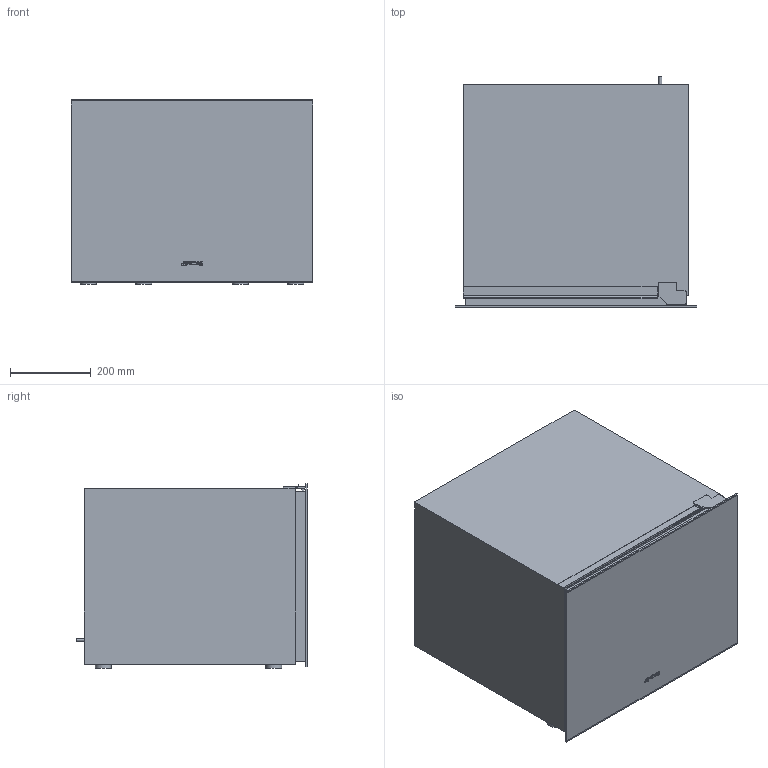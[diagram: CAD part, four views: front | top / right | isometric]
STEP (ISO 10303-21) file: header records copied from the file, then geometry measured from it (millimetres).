
FILE_DESCRIPTION(/* description */ (''),/* implementation_level */ '2;1');
FILE_NAME(/* name */ 'CVI621LWNR3.stp',/* time_stamp */ '2021-07-06T18:03:41+02:00',/* author */ (''),/* organization */ (''),/* preprocessor_version */ 'ST-DEVELOPER v16',/* originating_system */ 'SIEMENS PLM Software NX 11.0',/* authorisation */ '');
FILE_SCHEMA (('AUTOMOTIVE_DESIGN { 1 0 10303 214 3 1 1 1 }'));
Length unit declared in the file: millimetre
Products named in the file (1): mart8D8056A0tw7y
Bounding box: 596 x 571.7 x 456.53 mm (x, y, z)
Volume: 133447318.1 mm3; surface area: 2612970.1 mm2
Topology: 15 solids, 15 shells, 146 faces, 328 edges, 218 vertices
Faces by surface type: plane 99, cylinder 36, extrusion 11
Full cylindrical faces by diameter (mm): 4.608 x6, 6 x1, 7 x1, 40 x4
Entity records: 4355 total; most frequent: CARTESIAN_POINT 983, DIRECTION 648, ORIENTED_EDGE 630, EDGE_CURVE 315, VECTOR 230, LINE 219, VERTEX_POINT 218, AXIS2_PLACEMENT_3D 209
